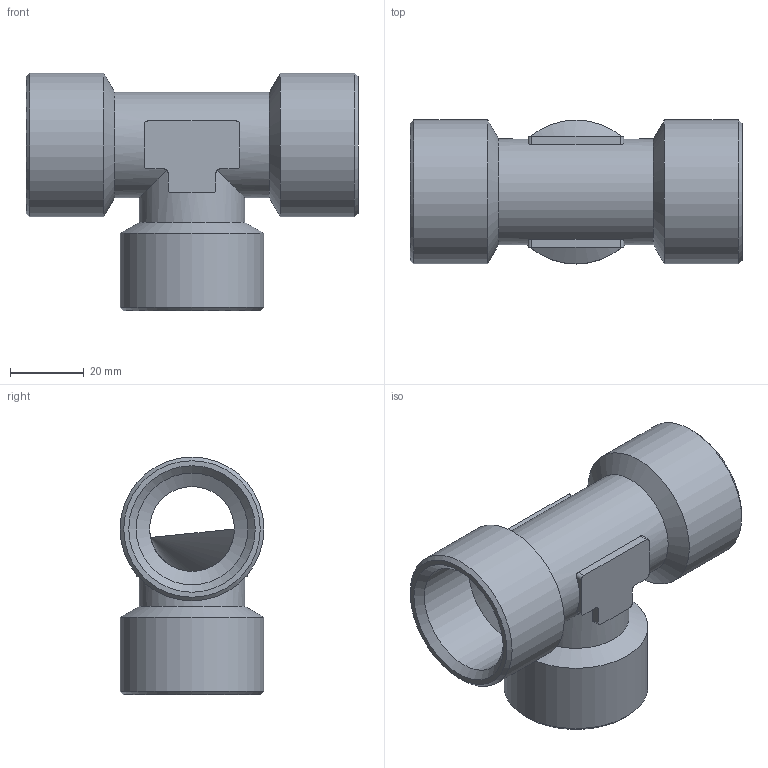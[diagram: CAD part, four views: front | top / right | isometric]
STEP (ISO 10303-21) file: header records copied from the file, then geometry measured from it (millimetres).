
FILE_DESCRIPTION(/* description */ (''),/* implementation_level */ '2;1');
FILE_NAME(/* name */ '40008_111_G1_27.09.16',/* time_stamp */ '2016-09-27T12:27:13+02:00',/* author */ (''),/* organization */ (''),/* preprocessor_version */ 'ST-DEVELOPER v16.5',/* originating_system */ 'HiCAD 2016 2101.0 Build 254',/* authorisation */ '');
FILE_SCHEMA (('AUTOMOTIVE_DESIGN { 1 0 10303 214 1 1 1 1 }'));
Length unit declared in the file: millimetre
Products named in the file (2): Root; 40008
Assembly tree (1 placements, depth 2):
  Root
    40008
Bounding box: 90 x 39 x 64.5 mm (x, y, z)
Volume: 46127.2 mm3; surface area: 25421.7 mm2
Topology: 1 solids, 1 shells, 59 faces, 157 edges, 99 vertices
Faces by surface type: cylinder 26, plane 21, cone 12
Full cylindrical faces by diameter (mm): 23 x2, 28.7 x2, 30.291 x3, 39 x3
Entity records: 5586 total; most frequent: CARTESIAN_POINT 2945, DIRECTION 280, PRESENTATION_STYLE_ASSIGNMENT 257, COLOUR_RGB 257, DRAUGHTING_PRE_DEFINED_CURVE_FONT 256, CURVE_STYLE 256, OVER_RIDING_STYLED_ITEM 256, ORIENTED_EDGE 256
